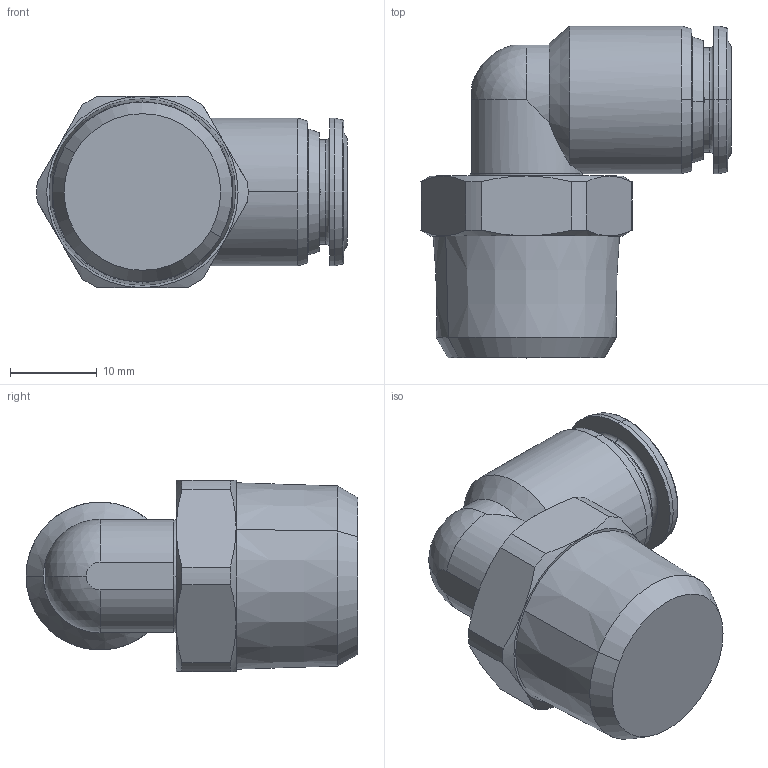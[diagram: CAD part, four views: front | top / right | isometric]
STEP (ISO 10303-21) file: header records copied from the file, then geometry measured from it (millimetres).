
FILE_DESCRIPTION (( 'STEP AP214' ), '1' );
FILE_NAME ('60110X0009.STEP', '2024-08-28T12:18:15', ( '' ), ( '' ), 'SwSTEP 2.0', 'SolidWorks 2020', '' );
FILE_SCHEMA (( 'AUTOMOTIVE_DESIGN' ));
Length unit declared in the file: millimetre
Products named in the file (1): 60110X0009
Bounding box: 35.7 x 38.15 x 22 mm (x, y, z)
Volume: 11699.6 mm3; surface area: 4706.7 mm2
Topology: 1 solids, 3 shells, 112 faces, 268 edges, 167 vertices
Faces by surface type: plane 40, cylinder 38, cone 28, torus 4, sphere 2
Entity records: 3469 total; most frequent: CARTESIAN_POINT 819, DIRECTION 577, ORIENTED_EDGE 532, EDGE_CURVE 266, AXIS2_PLACEMENT_3D 237, VERTEX_POINT 167, CIRCLE 124, EDGE_LOOP 119
